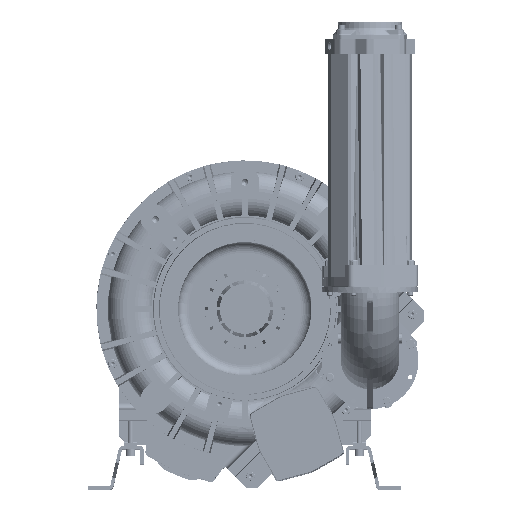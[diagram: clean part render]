
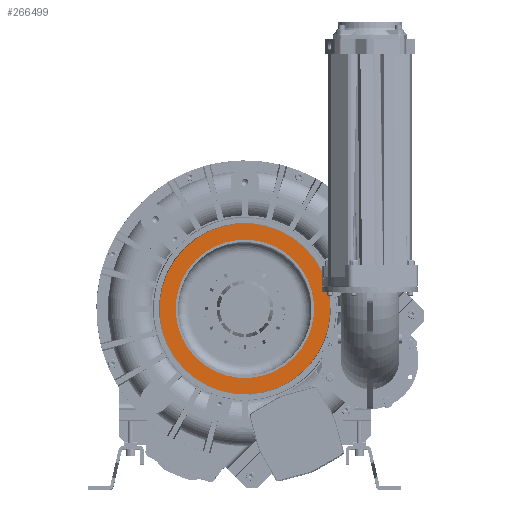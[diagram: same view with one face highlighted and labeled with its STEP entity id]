
A CAD part, top view. The second image highlights one B-rep face of the part: STEP entity #266499.
In plain terms, the highlighted planar face has unit normal (0, 0, 1).
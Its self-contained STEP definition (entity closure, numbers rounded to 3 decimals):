
#6300 = DIRECTION ( 'NONE',  ( 0., 0., -1. ) ) ;
#22925 = EDGE_CURVE ( 'NONE', #119138, #119138, #85709, .T. ) ;
#24320 = DIRECTION ( 'NONE',  ( 0., 0., 1. ) ) ;
#26926 = AXIS2_PLACEMENT_3D ( 'NONE', #207559, #99999, #37722 ) ;
#37722 = DIRECTION ( 'NONE',  ( -0.707, -0.707, 0. ) ) ;
#47436 = PLANE ( 'NONE',  #106520 ) ;
#58410 = CIRCLE ( 'NONE', #26926, 127.694 ) ;
#68639 = FACE_OUTER_BOUND ( 'NONE', #256455, .T. ) ;
#85709 = CIRCLE ( 'NONE', #171560, 103.5 ) ;
#92633 = DIRECTION ( 'NONE',  ( -0.707, -0.707, 0. ) ) ;
#99999 = DIRECTION ( 'NONE',  ( 0., 0., 1. ) ) ;
#106520 = AXIS2_PLACEMENT_3D ( 'NONE', #242662, #6300, #92633 ) ;
#119138 = VERTEX_POINT ( 'NONE', #205477 ) ;
#129038 = EDGE_CURVE ( 'NONE', #248008, #248008, #58410, .T. ) ;
#171560 = AXIS2_PLACEMENT_3D ( 'NONE', #218172, #24320, #199720 ) ;
#176154 = FACE_BOUND ( 'NONE', #206294, .T. ) ;
#199720 = DIRECTION ( 'NONE',  ( 0.707, 0.707, 0. ) ) ;
#205477 = CARTESIAN_POINT ( 'NONE',  ( 73.186, 73.186, 333.5 ) ) ;
#206294 = EDGE_LOOP ( 'NONE', ( #258651 ) ) ;
#207559 = CARTESIAN_POINT ( 'NONE',  ( 0., 0., 333.5 ) ) ;
#218172 = CARTESIAN_POINT ( 'NONE',  ( 0., 0., 333.5 ) ) ;
#226759 = CARTESIAN_POINT ( 'NONE',  ( -90.293, -90.293, 333.5 ) ) ;
#242662 = CARTESIAN_POINT ( 'NONE',  ( 0., 0., 333.5 ) ) ;
#248008 = VERTEX_POINT ( 'NONE', #226759 ) ;
#256455 = EDGE_LOOP ( 'NONE', ( #259925 ) ) ;
#258651 = ORIENTED_EDGE ( 'NONE', *, *, #22925, .F. ) ;
#259925 = ORIENTED_EDGE ( 'NONE', *, *, #129038, .T. ) ;
#266499 = ADVANCED_FACE ( 'NONE', ( #176154, #68639 ), #47436, .F. ) ;
